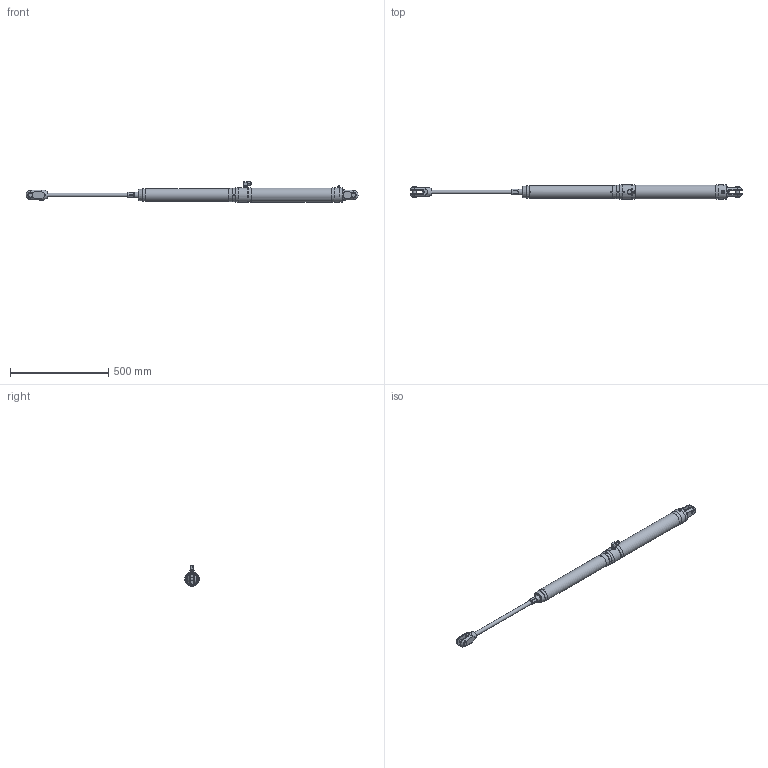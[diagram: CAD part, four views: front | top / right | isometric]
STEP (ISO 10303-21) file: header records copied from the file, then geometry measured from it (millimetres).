
FILE_DESCRIPTION(/* description */ (''),/* implementation_level */ '2;1');
FILE_NAME(/* name */ 'Q:\AA BRAND HYDRAULICS\HYDRAULICS FAMILY DIRECTORY\HYDRAULICS\CYLINDERS\MECHANICAL LOCK RAMS\ALUMINIUM - STAINLESS SINGLE ACTING (-0012 To -0150)\MSA-0022-S0400-NP-71\MSA-0022-S0400-NP-71 (Open).stp',/* time_stamp */ '2018-04-25T15:45:03+01:00',/* author */ ('Lorena'),/* organization */ (''),/* preprocessor_version */ 'ST-DEVELOPER v17',/* originating_system */ 'Autodesk Inventor 2018',/* authorisation */ '');
FILE_SCHEMA (('AUTOMOTIVE_DESIGN { 1 0 10303 214 3 1 1 }'));
Length unit declared in the file: millimetre
Products named in the file (1): MSA-0022-S0400-NP-71 (Open)
Bounding box: 1689.98 x 74.2 x 105 mm (x, y, z)
Volume: 4287816.7 mm3; surface area: 310485.3 mm2
Topology: 2 solids, 4 shells, 491 faces, 1287 edges, 839 vertices
Faces by surface type: plane 279, cone 119, cylinder 78, torus 6, bspline 5, sphere 4
Full cylindrical faces by diameter (mm): 4 x5, 4.2 x2, 4.4 x1, 5 x4, 5.1 x1, 7 x1, 9 x1, 10 x2, 11.11 x1, 11.157 x1, 11.5 x1, 11.8 x1, 12 x3, 12.157 x1, 13 x1, 13.157 x2, 14.5 x2, 18.3 x3, 19.05 x2, 19.5 x1, 22 x1, 23.812 x2, 30 x2, 31 x2, 34 x1, 65 x1, 71.2 x1, 74.2 x4
Entity records: 16696 total; most frequent: CARTESIAN_POINT 4220, ORIENTED_EDGE 2554, DIRECTION 2489, EDGE_CURVE 1277, AXIS2_PLACEMENT_3D 958, VERTEX_POINT 839, LINE 573, VECTOR 573
